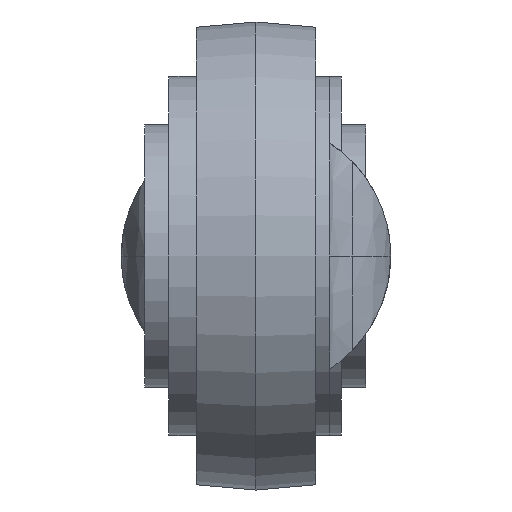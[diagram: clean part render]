
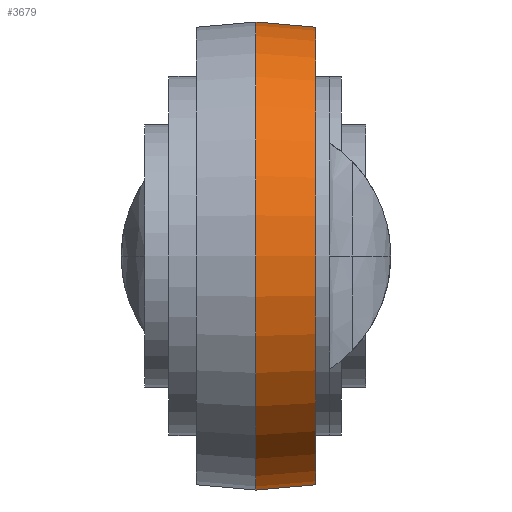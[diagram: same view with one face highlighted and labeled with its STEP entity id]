
A CAD part, left-side view. The second image highlights one B-rep face of the part: STEP entity #3679.
In plain terms, the highlighted conical face has half-angle 5 degrees and reference radius 62.5 mm.
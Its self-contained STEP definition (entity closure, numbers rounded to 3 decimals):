
#56 = CARTESIAN_POINT ( 'NONE',  ( 490.178, -177.5, 2439.839 ) ) ;
#342 = CARTESIAN_POINT ( 'NONE',  ( 490.178, -177.5, 2502.339 ) ) ;
#376 = AXIS2_PLACEMENT_3D ( 'NONE', #4027, #3648, #2173 ) ;
#514 = CARTESIAN_POINT ( 'NONE',  ( 490.178, -193.5, 2563.439 ) ) ;
#635 = VECTOR ( 'NONE', #2454, 1000. ) ;
#818 = EDGE_CURVE ( 'NONE', #4457, #2525, #4613, .T. ) ;
#969 = ORIENTED_EDGE ( 'NONE', *, *, #2216, .T. ) ;
#1089 = DIRECTION ( 'NONE',  ( 1., 0., 0. ) ) ;
#1281 = AXIS2_PLACEMENT_3D ( 'NONE', #2901, #3663, #4056 ) ;
#1580 = CARTESIAN_POINT ( 'NONE',  ( 490.178, -177.5, 2564.839 ) ) ;
#1617 = LINE ( 'NONE', #2483, #635 ) ;
#2016 = ORIENTED_EDGE ( 'NONE', *, *, #3321, .T. ) ;
#2024 = AXIS2_PLACEMENT_3D ( 'NONE', #342, #2950, #1089 ) ;
#2096 = CIRCLE ( 'NONE', #376, 61.1 ) ;
#2173 = DIRECTION ( 'NONE',  ( 0., 0., 1. ) ) ;
#2216 = EDGE_CURVE ( 'NONE', #2654, #4511, #1617, .T. ) ;
#2301 = CARTESIAN_POINT ( 'NONE',  ( 490.178, -177.5, 2439.839 ) ) ;
#2454 = DIRECTION ( 'NONE',  ( 0., 0.996, 0.087 ) ) ;
#2483 = CARTESIAN_POINT ( 'NONE',  ( 490.178, -177.5, 2564.839 ) ) ;
#2525 = VERTEX_POINT ( 'NONE', #2301 ) ;
#2596 = EDGE_LOOP ( 'NONE', ( #2687, #2016, #969, #3506 ) ) ;
#2654 = VERTEX_POINT ( 'NONE', #514 ) ;
#2687 = ORIENTED_EDGE ( 'NONE', *, *, #818, .F. ) ;
#2901 = CARTESIAN_POINT ( 'NONE',  ( 490.178, -177.5, 2502.339 ) ) ;
#2903 = VECTOR ( 'NONE', #3396, 1000. ) ;
#2950 = DIRECTION ( 'NONE',  ( 0., -1., 0. ) ) ;
#3321 = EDGE_CURVE ( 'NONE', #4457, #2654, #2096, .T. ) ;
#3396 = DIRECTION ( 'NONE',  ( 0., 0.996, -0.087 ) ) ;
#3506 = ORIENTED_EDGE ( 'NONE', *, *, #3714, .T. ) ;
#3648 = DIRECTION ( 'NONE',  ( 0., 1., 0. ) ) ;
#3663 = DIRECTION ( 'NONE',  ( 0., 1., 0. ) ) ;
#3679 = ADVANCED_FACE ( 'NONE', ( #4328 ), #3784, .T. ) ;
#3702 = CIRCLE ( 'NONE', #2024, 62.5 ) ;
#3714 = EDGE_CURVE ( 'NONE', #4511, #2525, #3702, .T. ) ;
#3784 = CONICAL_SURFACE ( 'NONE', #1281, 62.5, 0.087 ) ;
#4027 = CARTESIAN_POINT ( 'NONE',  ( 490.178, -193.5, 2502.339 ) ) ;
#4056 = DIRECTION ( 'NONE',  ( 0., 0., 1. ) ) ;
#4328 = FACE_OUTER_BOUND ( 'NONE', #2596, .T. ) ;
#4457 = VERTEX_POINT ( 'NONE', #4534 ) ;
#4511 = VERTEX_POINT ( 'NONE', #1580 ) ;
#4534 = CARTESIAN_POINT ( 'NONE',  ( 490.178, -193.5, 2441.238 ) ) ;
#4613 = LINE ( 'NONE', #56, #2903 ) ;
